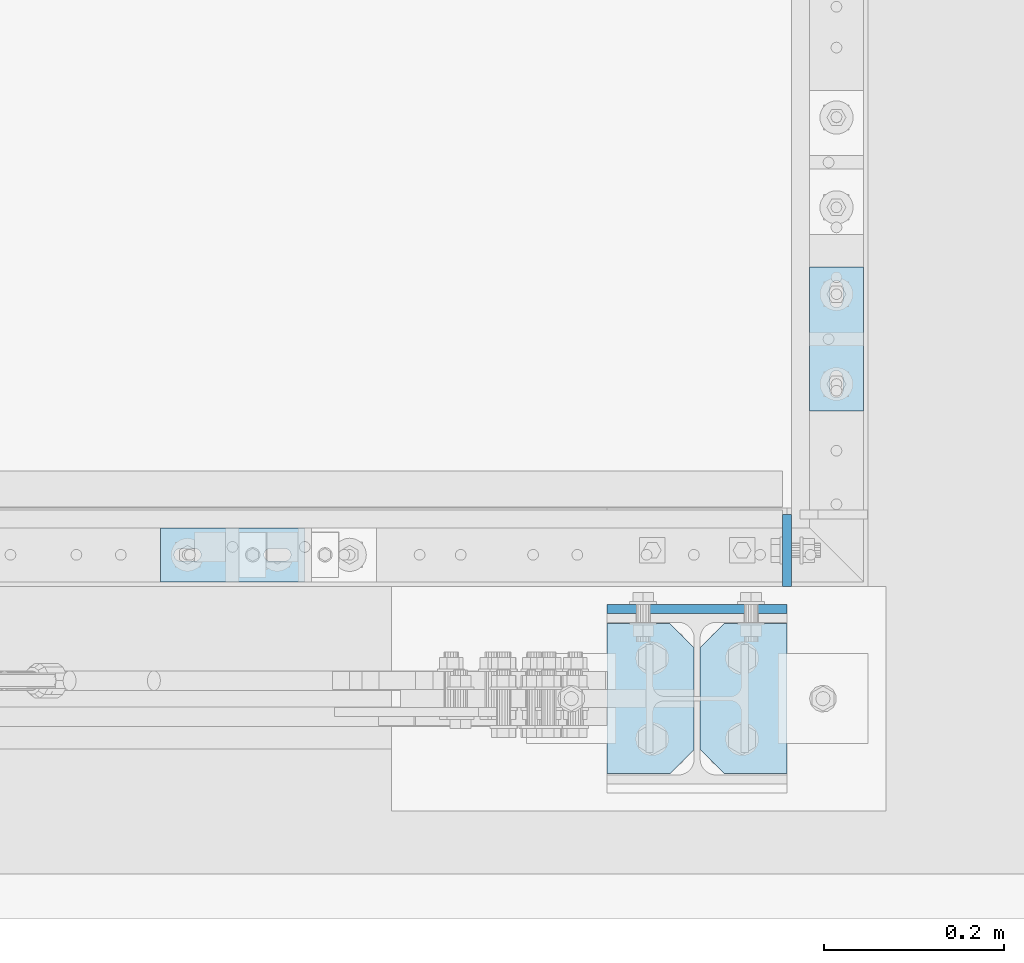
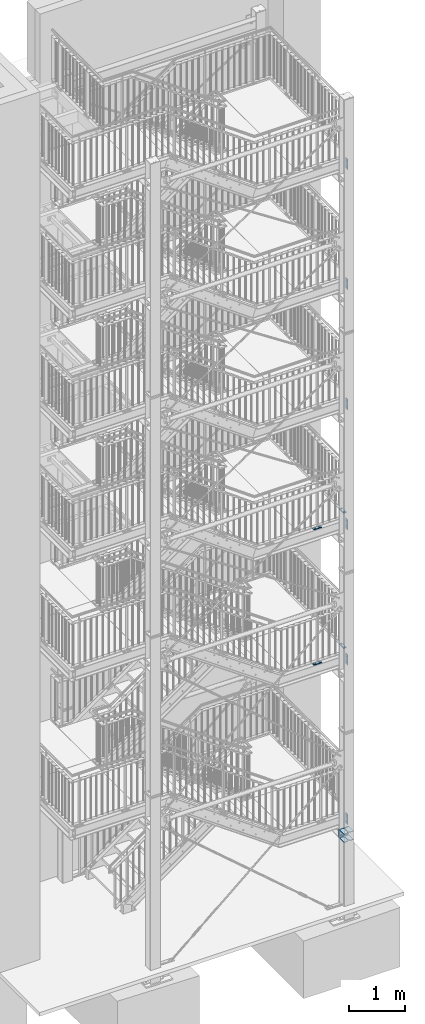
# One storey, part 203 of 831: 15 plates, 48 openings.
"""IFC2X3 building model written with IfcOpenShell, lengths in millimetres."""

from ifc_helpers import new_model, entity, si_unit, converted_unit, point, frame, frame_2d, origin, origin_with_axes, origin_2d_with_axis, place, context, project, spatial, polyline, circle_curve, line_curve, trimmed, segment, composite_curve, circle, outline, extrude, material, layer, layer_set, element, save


model = new_model("IFC2X3")

# Units and contexts
model_context = context("Model", 3, precision=1e-09, world=origin_with_axes())
ifc_project = project(units=[si_unit("LENGTHUNIT", "METRE", prefix="MILLI"), si_unit("AREAUNIT", "SQUARE_METRE"), si_unit("VOLUMEUNIT", "CUBIC_METRE"), converted_unit("PLANEANGLEUNIT", "DEGREE", entity("IfcPlaneAngleMeasure", 0.01745329), si_unit("PLANEANGLEUNIT", "RADIAN"), dimensions=[0, 0, 0, 0, 0, 0, 0])], contexts=[model_context])

# Site, building, storey
site_placement = place(None, origin_with_axes())
site = spatial("IfcSite", under=ifc_project, at=site_placement, Name="Site", CompositionType="ELEMENT")
building_placement = place(site_placement, origin_with_axes())
building = spatial("IfcBuilding", under=site, at=building_placement, Name="Struktur 1", CompositionType="ELEMENT")
storey_placement = place(building_placement, origin_with_axes())
storey = spatial("IfcBuildingStorey", under=building, at=storey_placement, Name="Default Storey", CompositionType="ELEMENT", Elevation=0.0)

# Plate, openings
ifc_material = material(Name="S235JR")
ifc_layer_1 = layer(ifc_material, 10.0)
ifc_layer_set_1 = layer_set([ifc_layer_1], Name="S235JR")
plate_1_placement = place(None, frame((8866.713402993, 4471.736971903, 1846.0526312), z_axis=(0.0, -1.0, 0.0), x_axis=(0.0, 0.0, -1.0)))
plate_1 = element("IfcPlate", 1, at=plate_1_placement, inside=storey, material=ifc_layer_set_1, Name="Endplate", ObjectType="Endplate", context=model_context, shape_type="SweptSolid", body=[
    extrude(outline(polyline([(-90.0, -100.0), (90.0, -100.0), (90.0, 100.0), (-90.0, 100.0), (-90.0, -100.0)])), origin_with_axes(), (0.0, 0.0, 1.0), 10.0),
])
opening_1_placement = place(plate_1_placement, frame((-67.0, -21.25, 10.5), z_axis=(0.0, 0.0, -1.0), x_axis=(1.0, 0.0, 0.0)))
element("IfcOpeningElement", 2, at=opening_1_placement, cuts=plate_1, ObjectType="Opening", context=model_context, shape_type="SweptSolid", body=[
    extrude(circle(Radius=6.001, at=origin_2d_with_axis()), origin(), (0.0, 0.0, 1.0), 11.0),
])
opening_2_placement = place(plate_1_placement, frame((67.0, -21.25, 10.5), z_axis=(0.0, 0.0, -1.0), x_axis=(1.0, 0.0, 0.0)))
element("IfcOpeningElement", 3, at=opening_2_placement, cuts=plate_1, ObjectType="Opening", context=model_context, shape_type="SweptSolid", body=[
    extrude(circle(Radius=6.001, at=origin_2d_with_axis()), origin(), (0.0, 0.0, 1.0), 11.0),
])
opening_3_placement = place(plate_1_placement, frame((67.0, 21.25, 10.5), z_axis=(0.0, 0.0, -1.0), x_axis=(1.0, 0.0, 0.0)))
element("IfcOpeningElement", 4, at=opening_3_placement, cuts=plate_1, ObjectType="Opening", context=model_context, shape_type="SweptSolid", body=[
    extrude(circle(Radius=6.001, at=origin_2d_with_axis()), origin(), (0.0, 0.0, 1.0), 11.0),
])
opening_4_placement = place(plate_1_placement, frame((-67.0, 21.25, 10.5), z_axis=(0.0, 0.0, -1.0), x_axis=(1.0, 0.0, 0.0)))
element("IfcOpeningElement", 5, at=opening_4_placement, cuts=plate_1, ObjectType="Opening", context=model_context, shape_type="SweptSolid", body=[
    extrude(circle(Radius=6.001, at=origin_2d_with_axis()), origin(), (0.0, 0.0, 1.0), 11.0),
])
opening_5_placement = place(plate_1_placement, frame((45.0, -60.0, 10.5), z_axis=(0.0, 0.0, -1.0), x_axis=(0.0, -1.0, 0.0)))
element("IfcOpeningElement", 6, at=opening_5_placement, cuts=plate_1, ObjectType="Opening", context=model_context, shape_type="SweptSolid", body=[
    extrude(circle(Radius=9.001, at=origin_2d_with_axis()), origin(), (0.0, 0.0, 1.0), 11.0),
])
opening_6_placement = place(plate_1_placement, frame((-45.0, 60.0, 10.5), z_axis=(0.0, 0.0, -1.0), x_axis=(0.0, 1.0, 0.0)))
element("IfcOpeningElement", 7, at=opening_6_placement, cuts=plate_1, ObjectType="Opening", context=model_context, shape_type="SweptSolid", body=[
    extrude(circle(Radius=9.001, at=origin_2d_with_axis()), origin(), (0.0, 0.0, 1.0), 11.0),
])
opening_7_placement = place(plate_1_placement, frame((-45.0, -60.0, 10.5), z_axis=(0.0, 0.0, -1.0), x_axis=(0.0, -1.0, 0.0)))
element("IfcOpeningElement", 8, at=opening_7_placement, cuts=plate_1, ObjectType="Opening", context=model_context, shape_type="SweptSolid", body=[
    extrude(circle(Radius=9.001, at=origin_2d_with_axis()), origin(), (0.0, 0.0, 1.0), 11.0),
])
opening_8_placement = place(plate_1_placement, frame((45.0, 60.0, 10.5), z_axis=(0.0, 0.0, -1.0), x_axis=(0.0, 1.0, 0.0)))
element("IfcOpeningElement", 9, at=opening_8_placement, cuts=plate_1, ObjectType="Opening", context=model_context, shape_type="SweptSolid", body=[
    extrude(circle(Radius=9.001, at=origin_2d_with_axis()), origin(), (0.0, 0.0, 1.0), 11.0),
])

plate_2_placement = place(None, frame((8863.463402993, 4450.236971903, 1931.0526312), z_axis=(0.0, 0.0, 1.0), x_axis=(-1.0, 0.0, 0.0)))
plate_2 = element("IfcPlate", 10, at=plate_2_placement, inside=storey, material=ifc_layer_set_1, Name="Stiffener#1", ObjectType="Stiffener#1", context=model_context, shape_type="SweptSolid", body=[
    extrude(outline(polyline([(0.0, 0.0), (96.75, 0.0), (96.75, 167.0), (0.0, 167.0), (0.0, 0.0)])), origin_with_axes(), (0.0, 0.0, 1.0), 10.0),
])
opening_9_placement = place(plate_2_placement, frame((0.0, 0.0, -0.01), z_axis=(0.0, 0.0, 1.0), x_axis=(1.0, 0.0, 0.0)))
element("IfcOpeningElement", 11, at=opening_9_placement, cuts=plate_2, ObjectType="Opening", context=model_context, shape_type="SweptSolid", body=[
    extrude(outline(polyline([(0.0, 167.0), (0.0, 140.0), (27.0, 167.0), (0.0, 167.0)])), origin(), (0.0, 0.0, 1.0), 10.02),
])
opening_10_placement = place(plate_2_placement, frame((0.0, 0.0, -0.01), z_axis=(0.0, 0.0, 1.0), x_axis=(1.0, 0.0, 0.0)))
element("IfcOpeningElement", 12, at=opening_10_placement, cuts=plate_2, ObjectType="Opening", context=model_context, shape_type="SweptSolid", body=[
    extrude(outline(polyline([(0.0, 0.0), (27.0, 0.0), (0.0, 27.0), (0.0, 0.0)])), origin(), (0.0, 0.0, 1.0), 10.02),
])

plate_3_placement = place(None, frame((8966.713402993, 4450.236971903, 1931.0526312), z_axis=(0.0, 0.0, 1.0), x_axis=(-1.0, 0.0, 0.0)))
plate_3 = element("IfcPlate", 13, at=plate_3_placement, inside=storey, material=ifc_layer_set_1, Name="Stiffener#2", ObjectType="Stiffener#2", context=model_context, shape_type="SweptSolid", body=[
    extrude(outline(polyline([(0.0, 0.0), (96.75, 0.0), (96.75, 167.0), (0.0, 167.0), (0.0, 0.0)])), origin_with_axes(), (0.0, 0.0, 1.0), 10.0),
])
opening_11_placement = place(plate_3_placement, frame((0.0, 0.0, -0.01), z_axis=(0.0, 0.0, 1.0), x_axis=(1.0, 0.0, 0.0)))
element("IfcOpeningElement", 14, at=opening_11_placement, cuts=plate_3, ObjectType="Opening", context=model_context, shape_type="SweptSolid", body=[
    extrude(outline(polyline([(96.75, 167.0), (69.75, 167.0), (96.75, 140.0), (96.75, 167.0)])), origin(), (0.0, 0.0, 1.0), 10.02),
])
opening_12_placement = place(plate_3_placement, frame((0.0, 0.0, -0.01), z_axis=(0.0, 0.0, 1.0), x_axis=(1.0, 0.0, 0.0)))
element("IfcOpeningElement", 15, at=opening_12_placement, cuts=plate_3, ObjectType="Opening", context=model_context, shape_type="SweptSolid", body=[
    extrude(outline(polyline([(96.75, 0.0), (96.75, 27.0), (69.75, 0.0), (96.75, 0.0)])), origin(), (0.0, 0.0, 1.0), 10.02),
])

plate_4_placement = place(None, frame((8766.713402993, 4450.236971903, 1761.0526312), z_axis=(0.0, 0.0, -1.0), x_axis=(1.0, 0.0, 0.0)))
plate_4 = element("IfcPlate", 16, at=plate_4_placement, inside=storey, material=ifc_layer_set_1, Name="Stiffener#3", ObjectType="Stiffener#3", context=model_context, shape_type="SweptSolid", body=[
    extrude(outline(polyline([(0.0, 0.0), (96.75, 0.0), (96.75, 167.0), (0.0, 167.0), (0.0, 0.0)])), origin_with_axes(), (0.0, 0.0, 1.0), 10.0),
])
opening_13_placement = place(plate_4_placement, frame((0.0, 0.0, -0.01), z_axis=(0.0, 0.0, 1.0), x_axis=(1.0, 0.0, 0.0)))
element("IfcOpeningElement", 17, at=opening_13_placement, cuts=plate_4, ObjectType="Opening", context=model_context, shape_type="SweptSolid", body=[
    extrude(outline(polyline([(96.75, 167.0), (69.75, 167.0), (96.75, 140.0), (96.75, 167.0)])), origin(), (0.0, 0.0, 1.0), 10.02),
])
opening_14_placement = place(plate_4_placement, frame((0.0, 0.0, -0.01), z_axis=(0.0, 0.0, 1.0), x_axis=(1.0, 0.0, 0.0)))
element("IfcOpeningElement", 18, at=opening_14_placement, cuts=plate_4, ObjectType="Opening", context=model_context, shape_type="SweptSolid", body=[
    extrude(outline(polyline([(96.75, 0.0), (96.75, 27.0), (69.75, 0.0), (96.75, 0.0)])), origin(), (0.0, 0.0, 1.0), 10.02),
])

plate_5_placement = place(None, frame((8869.963402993, 4450.236971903, 1761.0526312), z_axis=(0.0, 0.0, -1.0), x_axis=(1.0, 0.0, 0.0)))
plate_5 = element("IfcPlate", 19, at=plate_5_placement, inside=storey, material=ifc_layer_set_1, Name="Stiffener#4", ObjectType="Stiffener#4", context=model_context, shape_type="SweptSolid", body=[
    extrude(outline(polyline([(0.0, 0.0), (96.75, 0.0), (96.75, 167.0), (0.0, 167.0), (0.0, 0.0)])), origin_with_axes(), (0.0, 0.0, 1.0), 10.0),
])
opening_15_placement = place(plate_5_placement, frame((0.0, 0.0, -0.01), z_axis=(0.0, 0.0, 1.0), x_axis=(1.0, 0.0, 0.0)))
element("IfcOpeningElement", 20, at=opening_15_placement, cuts=plate_5, ObjectType="Opening", context=model_context, shape_type="SweptSolid", body=[
    extrude(outline(polyline([(0.0, 167.0), (0.0, 140.0), (27.0, 167.0), (0.0, 167.0)])), origin(), (0.0, 0.0, 1.0), 10.02),
])
opening_16_placement = place(plate_5_placement, frame((0.0, 0.0, -0.01), z_axis=(0.0, 0.0, 1.0), x_axis=(1.0, 0.0, 0.0)))
element("IfcOpeningElement", 21, at=opening_16_placement, cuts=plate_5, ObjectType="Opening", context=model_context, shape_type="SweptSolid", body=[
    extrude(outline(polyline([(0.0, 0.0), (27.0, 0.0), (0.0, 27.0), (0.0, 0.0)])), origin(), (0.0, 0.0, 1.0), 10.02),
])

ifc_layer_2 = layer(ifc_material, 20.0)
ifc_layer_set_2 = layer_set([ifc_layer_2], Name="S235JR")
plate_6_placement = place(None, frame((9051.713402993, 4686.735971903, 5674.8947367), z_axis=(0.0, 0.0, 1.0), x_axis=(0.0, 1.0, 0.0)))
plate_6 = element("IfcPlate", 22, at=plate_6_placement, inside=storey, material=ifc_layer_set_2, Name="Plate#507", ObjectType="Plate#507", context=model_context, shape_type="SweptSolid", body=[
    extrude(outline(polyline([(0.0, 0.0), (160.0, 0.0), (160.0, 60.0), (0.0, 60.0), (0.0, 0.0)])), origin_with_axes(), (0.0, 0.0, 1.0), 20.0),
])
opening_17_placement = place(plate_6_placement, frame((38.0, 37.001, 20.5), z_axis=(0.0, 0.0, 1.0), x_axis=(-1.0, 0.0, 0.0)))
element("IfcOpeningElement", 23, at=opening_17_placement, cuts=plate_6, ObjectType="Opening", context=model_context, shape_type="SweptSolid", body=[
    extrude(outline(composite_curve([segment(trimmed(line_curve((0.0, 0.0), (1.0, 0.0), 16.0), [point((0.0, 0.0))], [point((16.0, 0.0))], True, "CARTESIAN"), True, "CONTINUOUS"), segment(trimmed(circle_curve(frame_2d((16.0, 7.001), x_axis=(1.0, 0.0)), 7.001), [point((16.0, 0.0))], [point((16.0, 14.002))], True, "CARTESIAN"), True, "CONTINUOUS"), segment(trimmed(line_curve((16.0, 14.002), (-1.0, 0.0), 16.0), [point((16.0, 14.002))], [point((0.0, 14.002))], True, "CARTESIAN"), True, "CONTINUOUS"), segment(trimmed(circle_curve(frame_2d((0.0, 7.001), x_axis=(1.0, 0.0)), 7.001), [point((0.0, 14.002))], [point((0.0, 0.0))], True, "CARTESIAN"), True, "CONTINUOUS")], self_intersect=False)), origin(), (0.0, 0.0, -1.0), 21.0),
])
opening_18_placement = place(plate_6_placement, frame((138.0, 37.001, 20.5), z_axis=(0.0, 0.0, 1.0), x_axis=(-1.0, 0.0, 0.0)))
element("IfcOpeningElement", 24, at=opening_18_placement, cuts=plate_6, ObjectType="Opening", context=model_context, shape_type="SweptSolid", body=[
    extrude(outline(composite_curve([segment(trimmed(line_curve((0.0, 0.0), (1.0, 0.0), 16.0), [point((0.0, 0.0))], [point((16.0, 0.0))], True, "CARTESIAN"), True, "CONTINUOUS"), segment(trimmed(circle_curve(frame_2d((16.0, 7.001), x_axis=(1.0, 0.0)), 7.001), [point((16.0, 0.0))], [point((16.0, 14.002))], True, "CARTESIAN"), True, "CONTINUOUS"), segment(trimmed(line_curve((16.0, 14.002), (-1.0, 0.0), 16.0), [point((16.0, 14.002))], [point((0.0, 14.002))], True, "CARTESIAN"), True, "CONTINUOUS"), segment(trimmed(circle_curve(frame_2d((0.0, 7.001), x_axis=(1.0, 0.0)), 7.001), [point((0.0, 14.002))], [point((0.0, 0.0))], True, "CARTESIAN"), True, "CONTINUOUS")], self_intersect=False)), origin(), (0.0, 0.0, -1.0), 21.0),
])

plate_7_placement = place(None, frame((8269.792260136, 4496.736971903, 5674.8947367), z_axis=(0.0, 0.0, 1.0), x_axis=(1.0, 0.0, 0.0)))
plate_7 = element("IfcPlate", 25, at=plate_7_placement, inside=storey, material=ifc_layer_set_2, Name="Plate#508", ObjectType="Plate#508", context=model_context, shape_type="SweptSolid", body=[
    extrude(outline(polyline([(0.0, 0.0), (160.0, 0.0), (160.0, 60.0), (0.0, 60.0), (0.0, 0.0)])), origin_with_axes(), (0.0, 0.0, 1.0), 20.0),
])
opening_19_placement = place(plate_7_placement, frame((38.0, 37.001, 20.5), z_axis=(0.0, 0.0, 1.0), x_axis=(-1.0, 0.0, 0.0)))
element("IfcOpeningElement", 26, at=opening_19_placement, cuts=plate_7, ObjectType="Opening", context=model_context, shape_type="SweptSolid", body=[
    extrude(outline(composite_curve([segment(trimmed(line_curve((0.0, 0.0), (1.0, 0.0), 16.0), [point((0.0, 0.0))], [point((16.0, 0.0))], True, "CARTESIAN"), True, "CONTINUOUS"), segment(trimmed(circle_curve(frame_2d((16.0, 7.001), x_axis=(1.0, 0.0)), 7.001), [point((16.0, 0.0))], [point((16.0, 14.002))], True, "CARTESIAN"), True, "CONTINUOUS"), segment(trimmed(line_curve((16.0, 14.002), (-1.0, 0.0), 16.0), [point((16.0, 14.002))], [point((0.0, 14.002))], True, "CARTESIAN"), True, "CONTINUOUS"), segment(trimmed(circle_curve(frame_2d((0.0, 7.001), x_axis=(1.0, 0.0)), 7.001), [point((0.0, 14.002))], [point((0.0, 0.0))], True, "CARTESIAN"), True, "CONTINUOUS")], self_intersect=False)), origin(), (0.0, 0.0, -1.0), 21.0),
])
opening_20_placement = place(plate_7_placement, frame((138.0, 37.001, 20.5), z_axis=(0.0, 0.0, 1.0), x_axis=(-1.0, 0.0, 0.0)))
element("IfcOpeningElement", 27, at=opening_20_placement, cuts=plate_7, ObjectType="Opening", context=model_context, shape_type="SweptSolid", body=[
    extrude(outline(composite_curve([segment(trimmed(line_curve((0.0, 0.0), (1.0, 0.0), 16.0), [point((0.0, 0.0))], [point((16.0, 0.0))], True, "CARTESIAN"), True, "CONTINUOUS"), segment(trimmed(circle_curve(frame_2d((16.0, 7.001), x_axis=(1.0, 0.0)), 7.001), [point((16.0, 0.0))], [point((16.0, 14.002))], True, "CARTESIAN"), True, "CONTINUOUS"), segment(trimmed(line_curve((16.0, 14.002), (-1.0, 0.0), 16.0), [point((16.0, 14.002))], [point((0.0, 14.002))], True, "CARTESIAN"), True, "CONTINUOUS"), segment(trimmed(circle_curve(frame_2d((0.0, 7.001), x_axis=(1.0, 0.0)), 7.001), [point((0.0, 14.002))], [point((0.0, 0.0))], True, "CARTESIAN"), True, "CONTINUOUS")], self_intersect=False)), origin(), (0.0, 0.0, -1.0), 21.0),
])

plate_8_placement = place(None, frame((9051.713402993, 4686.735971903, 8636.0), z_axis=(0.0, 0.0, 1.0), x_axis=(0.0, 1.0, 0.0)))
plate_8 = element("IfcPlate", 28, at=plate_8_placement, inside=storey, material=ifc_layer_set_2, Name="Plate#507", ObjectType="Plate#507", context=model_context, shape_type="SweptSolid", body=[
    extrude(outline(polyline([(0.0, 0.0), (160.0, 0.0), (160.0, 60.0), (0.0, 60.0), (0.0, 0.0)])), origin_with_axes(), (0.0, 0.0, 1.0), 20.0),
])
opening_21_placement = place(plate_8_placement, frame((38.0, 37.001, 20.5), z_axis=(0.0, 0.0, 1.0), x_axis=(-1.0, 0.0, 0.0)))
element("IfcOpeningElement", 29, at=opening_21_placement, cuts=plate_8, ObjectType="Opening", context=model_context, shape_type="SweptSolid", body=[
    extrude(outline(composite_curve([segment(trimmed(line_curve((0.0, 0.0), (1.0, 0.0), 16.0), [point((0.0, 0.0))], [point((16.0, 0.0))], True, "CARTESIAN"), True, "CONTINUOUS"), segment(trimmed(circle_curve(frame_2d((16.0, 7.001), x_axis=(1.0, 0.0)), 7.001), [point((16.0, 0.0))], [point((16.0, 14.002))], True, "CARTESIAN"), True, "CONTINUOUS"), segment(trimmed(line_curve((16.0, 14.002), (-1.0, 0.0), 16.0), [point((16.0, 14.002))], [point((0.0, 14.002))], True, "CARTESIAN"), True, "CONTINUOUS"), segment(trimmed(circle_curve(frame_2d((0.0, 7.001), x_axis=(1.0, 0.0)), 7.001), [point((0.0, 14.002))], [point((0.0, 0.0))], True, "CARTESIAN"), True, "CONTINUOUS")], self_intersect=False)), origin(), (0.0, 0.0, -1.0), 21.0),
])
opening_22_placement = place(plate_8_placement, frame((138.0, 37.001, 20.5), z_axis=(0.0, 0.0, 1.0), x_axis=(-1.0, 0.0, 0.0)))
element("IfcOpeningElement", 30, at=opening_22_placement, cuts=plate_8, ObjectType="Opening", context=model_context, shape_type="SweptSolid", body=[
    extrude(outline(composite_curve([segment(trimmed(line_curve((0.0, 0.0), (1.0, 0.0), 16.0), [point((0.0, 0.0))], [point((16.0, 0.0))], True, "CARTESIAN"), True, "CONTINUOUS"), segment(trimmed(circle_curve(frame_2d((16.0, 7.001), x_axis=(1.0, 0.0)), 7.001), [point((16.0, 0.0))], [point((16.0, 14.002))], True, "CARTESIAN"), True, "CONTINUOUS"), segment(trimmed(line_curve((16.0, 14.002), (-1.0, 0.0), 16.0), [point((16.0, 14.002))], [point((0.0, 14.002))], True, "CARTESIAN"), True, "CONTINUOUS"), segment(trimmed(circle_curve(frame_2d((0.0, 7.001), x_axis=(1.0, 0.0)), 7.001), [point((0.0, 14.002))], [point((0.0, 0.0))], True, "CARTESIAN"), True, "CONTINUOUS")], self_intersect=False)), origin(), (0.0, 0.0, -1.0), 21.0),
])

plate_9_placement = place(None, frame((8269.792260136, 4496.736971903, 8636.0), z_axis=(0.0, 0.0, 1.0), x_axis=(1.0, 0.0, 0.0)))
plate_9 = element("IfcPlate", 31, at=plate_9_placement, inside=storey, material=ifc_layer_set_2, Name="Plate#508", ObjectType="Plate#508", context=model_context, shape_type="SweptSolid", body=[
    extrude(outline(polyline([(0.0, 0.0), (160.0, 0.0), (160.0, 60.0), (0.0, 60.0), (0.0, 0.0)])), origin_with_axes(), (0.0, 0.0, 1.0), 20.0),
])
opening_23_placement = place(plate_9_placement, frame((38.0, 37.001, 20.5), z_axis=(0.0, 0.0, 1.0), x_axis=(-1.0, 0.0, 0.0)))
element("IfcOpeningElement", 32, at=opening_23_placement, cuts=plate_9, ObjectType="Opening", context=model_context, shape_type="SweptSolid", body=[
    extrude(outline(composite_curve([segment(trimmed(line_curve((0.0, 0.0), (1.0, 0.0), 16.0), [point((0.0, 0.0))], [point((16.0, 0.0))], True, "CARTESIAN"), True, "CONTINUOUS"), segment(trimmed(circle_curve(frame_2d((16.0, 7.001), x_axis=(1.0, 0.0)), 7.001), [point((16.0, 0.0))], [point((16.0, 14.002))], True, "CARTESIAN"), True, "CONTINUOUS"), segment(trimmed(line_curve((16.0, 14.002), (-1.0, 0.0), 16.0), [point((16.0, 14.002))], [point((0.0, 14.002))], True, "CARTESIAN"), True, "CONTINUOUS"), segment(trimmed(circle_curve(frame_2d((0.0, 7.001), x_axis=(1.0, 0.0)), 7.001), [point((0.0, 14.002))], [point((0.0, 0.0))], True, "CARTESIAN"), True, "CONTINUOUS")], self_intersect=False)), origin(), (0.0, 0.0, -1.0), 21.0),
])
opening_24_placement = place(plate_9_placement, frame((138.0, 37.001, 20.5), z_axis=(0.0, 0.0, 1.0), x_axis=(-1.0, 0.0, 0.0)))
element("IfcOpeningElement", 33, at=opening_24_placement, cuts=plate_9, ObjectType="Opening", context=model_context, shape_type="SweptSolid", body=[
    extrude(outline(composite_curve([segment(trimmed(line_curve((0.0, 0.0), (1.0, 0.0), 16.0), [point((0.0, 0.0))], [point((16.0, 0.0))], True, "CARTESIAN"), True, "CONTINUOUS"), segment(trimmed(circle_curve(frame_2d((16.0, 7.001), x_axis=(1.0, 0.0)), 7.001), [point((16.0, 0.0))], [point((16.0, 14.002))], True, "CARTESIAN"), True, "CONTINUOUS"), segment(trimmed(line_curve((16.0, 14.002), (-1.0, 0.0), 16.0), [point((16.0, 14.002))], [point((0.0, 14.002))], True, "CARTESIAN"), True, "CONTINUOUS"), segment(trimmed(circle_curve(frame_2d((0.0, 7.001), x_axis=(1.0, 0.0)), 7.001), [point((0.0, 14.002))], [point((0.0, 0.0))], True, "CARTESIAN"), True, "CONTINUOUS")], self_intersect=False)), origin(), (0.0, 0.0, -1.0), 21.0),
])

plate_10_placement = place(None, frame((8971.713402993, 4571.736971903, 2176.0526312), z_axis=(-1.0, 0.0, 0.0), x_axis=(0.0, 0.0, -1.0)))
plate_10 = element("IfcPlate", 34, at=plate_10_placement, inside=storey, material=ifc_layer_set_1, Name="Endplate", ObjectType="Endplate", context=model_context, shape_type="SweptSolid", body=[
    extrude(outline(polyline([(0.0, 0.0), (230.0, 0.0), (230.0, 80.0), (0.0, 80.0), (0.0, 0.0)])), origin_with_axes(), (0.0, 0.0, 1.0), 10.0),
])
opening_25_placement = place(plate_10_placement, frame((209.0, 17.5, -0.5), z_axis=(0.0, 0.0, 1.0), x_axis=(1.0, 0.0, 0.0)))
element("IfcOpeningElement", 35, at=opening_25_placement, cuts=plate_10, ObjectType="Opening", context=model_context, shape_type="SweptSolid", body=[
    extrude(circle(Radius=6.001, at=origin_2d_with_axis()), origin(), (0.0, 0.0, 1.0), 11.0),
])
opening_26_placement = place(plate_10_placement, frame((21.0, 17.5, -0.5), z_axis=(0.0, 0.0, 1.0), x_axis=(1.0, 0.0, 0.0)))
element("IfcOpeningElement", 36, at=opening_26_placement, cuts=plate_10, ObjectType="Opening", context=model_context, shape_type="SweptSolid", body=[
    extrude(circle(Radius=6.001, at=origin_2d_with_axis()), origin(), (0.0, 0.0, 1.0), 11.0),
])
opening_27_placement = place(plate_10_placement, frame((64.001, 40.0, -0.5), z_axis=(0.0, 0.0, -1.0), x_axis=(-1.0, 0.0, 0.0)))
element("IfcOpeningElement", 37, at=opening_27_placement, cuts=plate_10, ObjectType="Opening", context=model_context, shape_type="SweptSolid", body=[
    extrude(circle(Radius=9.001, at=frame_2d((9.001, 0.0), x_axis=(1.0, 0.0))), origin(), (0.0, 0.0, -1.0), 11.0),
])
opening_28_placement = place(plate_10_placement, frame((184.001, 40.0, -0.5), z_axis=(0.0, 0.0, -1.0), x_axis=(-1.0, 0.0, 0.0)))
element("IfcOpeningElement", 38, at=opening_28_placement, cuts=plate_10, ObjectType="Opening", context=model_context, shape_type="SweptSolid", body=[
    extrude(circle(Radius=9.001, at=frame_2d((9.001, 0.0), x_axis=(1.0, 0.0))), origin(), (0.0, 0.0, -1.0), 11.0),
])

plate_11_placement = place(None, frame((8971.713402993, 4571.736971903, 5669.8947367), z_axis=(-1.0, 0.0, 0.0), x_axis=(0.0, 0.0, -1.0)))
plate_11 = element("IfcPlate", 39, at=plate_11_placement, inside=storey, material=ifc_layer_set_1, Name="Endplate", ObjectType="Endplate", context=model_context, shape_type="SweptSolid", body=[
    extrude(outline(polyline([(0.0, 0.0), (230.0, 0.0), (230.0, 80.0), (0.0, 80.0), (0.0, 0.0)])), origin_with_axes(), (0.0, 0.0, 1.0), 10.0),
])
opening_29_placement = place(plate_11_placement, frame((209.0, 17.5, -0.5), z_axis=(0.0, 0.0, 1.0), x_axis=(1.0, 0.0, 0.0)))
element("IfcOpeningElement", 40, at=opening_29_placement, cuts=plate_11, ObjectType="Opening", context=model_context, shape_type="SweptSolid", body=[
    extrude(circle(Radius=6.001, at=origin_2d_with_axis()), origin(), (0.0, 0.0, 1.0), 11.0),
])
opening_30_placement = place(plate_11_placement, frame((21.0, 17.5, -0.5), z_axis=(0.0, 0.0, 1.0), x_axis=(1.0, 0.0, 0.0)))
element("IfcOpeningElement", 41, at=opening_30_placement, cuts=plate_11, ObjectType="Opening", context=model_context, shape_type="SweptSolid", body=[
    extrude(circle(Radius=6.001, at=origin_2d_with_axis()), origin(), (0.0, 0.0, 1.0), 11.0),
])
opening_31_placement = place(plate_11_placement, frame((64.001, 40.0, -0.5), z_axis=(0.0, 0.0, -1.0), x_axis=(-1.0, 0.0, 0.0)))
element("IfcOpeningElement", 42, at=opening_31_placement, cuts=plate_11, ObjectType="Opening", context=model_context, shape_type="SweptSolid", body=[
    extrude(circle(Radius=9.001, at=frame_2d((9.001, 0.0), x_axis=(1.0, 0.0))), origin(), (0.0, 0.0, -1.0), 11.0),
])
opening_32_placement = place(plate_11_placement, frame((184.001, 40.0, -0.5), z_axis=(0.0, 0.0, -1.0), x_axis=(-1.0, 0.0, 0.0)))
element("IfcOpeningElement", 43, at=opening_32_placement, cuts=plate_11, ObjectType="Opening", context=model_context, shape_type="SweptSolid", body=[
    extrude(circle(Radius=9.001, at=frame_2d((9.001, 0.0), x_axis=(1.0, 0.0))), origin(), (0.0, 0.0, -1.0), 11.0),
])

plate_12_placement = place(None, frame((8971.713402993, 4571.736971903, 8631.0), z_axis=(-1.0, 0.0, 0.0), x_axis=(0.0, 0.0, -1.0)))
plate_12 = element("IfcPlate", 44, at=plate_12_placement, inside=storey, material=ifc_layer_set_1, Name="Endplate", ObjectType="Endplate", context=model_context, shape_type="SweptSolid", body=[
    extrude(outline(polyline([(0.0, 0.0), (230.0, 0.0), (230.0, 80.0), (0.0, 80.0), (0.0, 0.0)])), origin_with_axes(), (0.0, 0.0, 1.0), 10.0),
])
opening_33_placement = place(plate_12_placement, frame((209.0, 17.5, -0.5), z_axis=(0.0, 0.0, 1.0), x_axis=(1.0, 0.0, 0.0)))
element("IfcOpeningElement", 45, at=opening_33_placement, cuts=plate_12, ObjectType="Opening", context=model_context, shape_type="SweptSolid", body=[
    extrude(circle(Radius=6.001, at=origin_2d_with_axis()), origin(), (0.0, 0.0, 1.0), 11.0),
])
opening_34_placement = place(plate_12_placement, frame((21.0, 17.5, -0.5), z_axis=(0.0, 0.0, 1.0), x_axis=(1.0, 0.0, 0.0)))
element("IfcOpeningElement", 46, at=opening_34_placement, cuts=plate_12, ObjectType="Opening", context=model_context, shape_type="SweptSolid", body=[
    extrude(circle(Radius=6.001, at=origin_2d_with_axis()), origin(), (0.0, 0.0, 1.0), 11.0),
])
opening_35_placement = place(plate_12_placement, frame((64.001, 40.0, -0.5), z_axis=(0.0, 0.0, -1.0), x_axis=(-1.0, 0.0, 0.0)))
element("IfcOpeningElement", 47, at=opening_35_placement, cuts=plate_12, ObjectType="Opening", context=model_context, shape_type="SweptSolid", body=[
    extrude(circle(Radius=9.001, at=frame_2d((9.001, 0.0), x_axis=(1.0, 0.0))), origin(), (0.0, 0.0, -1.0), 11.0),
])
opening_36_placement = place(plate_12_placement, frame((184.001, 40.0, -0.5), z_axis=(0.0, 0.0, -1.0), x_axis=(-1.0, 0.0, 0.0)))
element("IfcOpeningElement", 48, at=opening_36_placement, cuts=plate_12, ObjectType="Opening", context=model_context, shape_type="SweptSolid", body=[
    extrude(circle(Radius=9.001, at=frame_2d((9.001, 0.0), x_axis=(1.0, 0.0))), origin(), (0.0, 0.0, -1.0), 11.0),
])

plate_13_placement = place(None, frame((8971.713402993, 4571.736971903, 11260.5000003), z_axis=(-1.0, 0.0, 0.0), x_axis=(0.0, 0.0, -1.0)))
plate_13 = element("IfcPlate", 49, at=plate_13_placement, inside=storey, material=ifc_layer_set_1, Name="Endplate", ObjectType="Endplate", context=model_context, shape_type="SweptSolid", body=[
    extrude(outline(polyline([(0.0, 0.0), (230.0, 0.0), (230.0, 80.0), (0.0, 80.0), (0.0, 0.0)])), origin_with_axes(), (0.0, 0.0, 1.0), 10.0),
])
opening_37_placement = place(plate_13_placement, frame((209.0, 17.5, -0.5), z_axis=(0.0, 0.0, 1.0), x_axis=(1.0, 0.0, 0.0)))
element("IfcOpeningElement", 50, at=opening_37_placement, cuts=plate_13, ObjectType="Opening", context=model_context, shape_type="SweptSolid", body=[
    extrude(circle(Radius=6.001, at=origin_2d_with_axis()), origin(), (0.0, 0.0, 1.0), 11.0),
])
opening_38_placement = place(plate_13_placement, frame((21.0, 17.5, -0.5), z_axis=(0.0, 0.0, 1.0), x_axis=(1.0, 0.0, 0.0)))
element("IfcOpeningElement", 51, at=opening_38_placement, cuts=plate_13, ObjectType="Opening", context=model_context, shape_type="SweptSolid", body=[
    extrude(circle(Radius=6.001, at=origin_2d_with_axis()), origin(), (0.0, 0.0, 1.0), 11.0),
])
opening_39_placement = place(plate_13_placement, frame((64.001, 40.0, -0.5), z_axis=(0.0, 0.0, -1.0), x_axis=(-1.0, 0.0, 0.0)))
element("IfcOpeningElement", 52, at=opening_39_placement, cuts=plate_13, ObjectType="Opening", context=model_context, shape_type="SweptSolid", body=[
    extrude(circle(Radius=9.001, at=frame_2d((9.001, 0.0), x_axis=(1.0, 0.0))), origin(), (0.0, 0.0, -1.0), 11.0),
])
opening_40_placement = place(plate_13_placement, frame((184.001, 40.0, -0.5), z_axis=(0.0, 0.0, -1.0), x_axis=(-1.0, 0.0, 0.0)))
element("IfcOpeningElement", 53, at=opening_40_placement, cuts=plate_13, ObjectType="Opening", context=model_context, shape_type="SweptSolid", body=[
    extrude(circle(Radius=9.001, at=frame_2d((9.001, 0.0), x_axis=(1.0, 0.0))), origin(), (0.0, 0.0, -1.0), 11.0),
])

plate_14_placement = place(None, frame((8971.713402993, 4571.736971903, 13891.5000001), z_axis=(-1.0, 0.0, 0.0), x_axis=(0.0, 0.0, -1.0)))
plate_14 = element("IfcPlate", 54, at=plate_14_placement, inside=storey, material=ifc_layer_set_1, Name="Endplate", ObjectType="Endplate", context=model_context, shape_type="SweptSolid", body=[
    extrude(outline(polyline([(0.0, 0.0), (230.0, 0.0), (230.0, 80.0), (0.0, 80.0), (0.0, 0.0)])), origin_with_axes(), (0.0, 0.0, 1.0), 10.0),
])
opening_41_placement = place(plate_14_placement, frame((209.0, 17.5, -0.5), z_axis=(0.0, 0.0, 1.0), x_axis=(1.0, 0.0, 0.0)))
element("IfcOpeningElement", 55, at=opening_41_placement, cuts=plate_14, ObjectType="Opening", context=model_context, shape_type="SweptSolid", body=[
    extrude(circle(Radius=6.001, at=origin_2d_with_axis()), origin(), (0.0, 0.0, 1.0), 11.0),
])
opening_42_placement = place(plate_14_placement, frame((21.0, 17.5, -0.5), z_axis=(0.0, 0.0, 1.0), x_axis=(1.0, 0.0, 0.0)))
element("IfcOpeningElement", 56, at=opening_42_placement, cuts=plate_14, ObjectType="Opening", context=model_context, shape_type="SweptSolid", body=[
    extrude(circle(Radius=6.001, at=origin_2d_with_axis()), origin(), (0.0, 0.0, 1.0), 11.0),
])
opening_43_placement = place(plate_14_placement, frame((64.001, 40.0, -0.5), z_axis=(0.0, 0.0, -1.0), x_axis=(-1.0, 0.0, 0.0)))
element("IfcOpeningElement", 57, at=opening_43_placement, cuts=plate_14, ObjectType="Opening", context=model_context, shape_type="SweptSolid", body=[
    extrude(circle(Radius=9.001, at=frame_2d((9.001, 0.0), x_axis=(1.0, 0.0))), origin(), (0.0, 0.0, -1.0), 11.0),
])
opening_44_placement = place(plate_14_placement, frame((184.001, 40.0, -0.5), z_axis=(0.0, 0.0, -1.0), x_axis=(-1.0, 0.0, 0.0)))
element("IfcOpeningElement", 58, at=opening_44_placement, cuts=plate_14, ObjectType="Opening", context=model_context, shape_type="SweptSolid", body=[
    extrude(circle(Radius=9.001, at=frame_2d((9.001, 0.0), x_axis=(1.0, 0.0))), origin(), (0.0, 0.0, -1.0), 11.0),
])

plate_15_placement = place(None, frame((8971.713402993, 4571.736971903, 16519.0000003), z_axis=(-1.0, 0.0, 0.0), x_axis=(0.0, 0.0, -1.0)))
plate_15 = element("IfcPlate", 59, at=plate_15_placement, inside=storey, material=ifc_layer_set_1, Name="Endplate", ObjectType="Endplate", context=model_context, shape_type="SweptSolid", body=[
    extrude(outline(polyline([(0.0, 0.0), (230.0, 0.0), (230.0, 80.0), (0.0, 80.0), (0.0, 0.0)])), origin_with_axes(), (0.0, 0.0, 1.0), 10.0),
])
opening_45_placement = place(plate_15_placement, frame((209.0, 17.5, -0.5), z_axis=(0.0, 0.0, 1.0), x_axis=(1.0, 0.0, 0.0)))
element("IfcOpeningElement", 60, at=opening_45_placement, cuts=plate_15, ObjectType="Opening", context=model_context, shape_type="SweptSolid", body=[
    extrude(circle(Radius=6.001, at=origin_2d_with_axis()), origin(), (0.0, 0.0, 1.0), 11.0),
])
opening_46_placement = place(plate_15_placement, frame((21.0, 17.5, -0.5), z_axis=(0.0, 0.0, 1.0), x_axis=(1.0, 0.0, 0.0)))
element("IfcOpeningElement", 61, at=opening_46_placement, cuts=plate_15, ObjectType="Opening", context=model_context, shape_type="SweptSolid", body=[
    extrude(circle(Radius=6.001, at=origin_2d_with_axis()), origin(), (0.0, 0.0, 1.0), 11.0),
])
opening_47_placement = place(plate_15_placement, frame((64.001, 40.0, -0.5), z_axis=(0.0, 0.0, -1.0), x_axis=(-1.0, 0.0, 0.0)))
element("IfcOpeningElement", 62, at=opening_47_placement, cuts=plate_15, ObjectType="Opening", context=model_context, shape_type="SweptSolid", body=[
    extrude(circle(Radius=9.001, at=frame_2d((9.001, 0.0), x_axis=(1.0, 0.0))), origin(), (0.0, 0.0, -1.0), 11.0),
])
opening_48_placement = place(plate_15_placement, frame((184.001, 40.0, -0.5), z_axis=(0.0, 0.0, -1.0), x_axis=(-1.0, 0.0, 0.0)))
element("IfcOpeningElement", 63, at=opening_48_placement, cuts=plate_15, ObjectType="Opening", context=model_context, shape_type="SweptSolid", body=[
    extrude(circle(Radius=9.001, at=frame_2d((9.001, 0.0), x_axis=(1.0, 0.0))), origin(), (0.0, 0.0, -1.0), 11.0),
])

save(model, "model.ifc")
